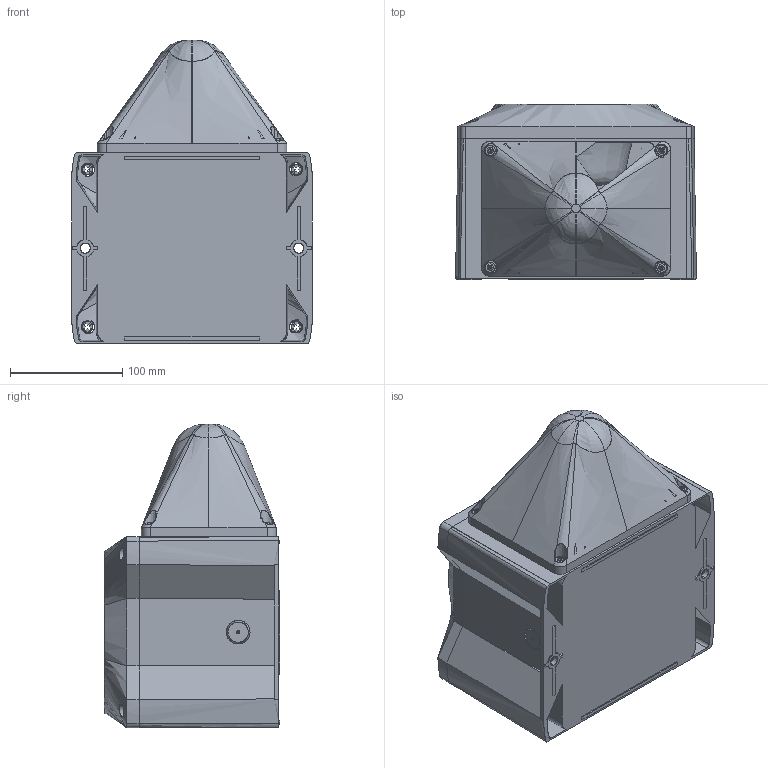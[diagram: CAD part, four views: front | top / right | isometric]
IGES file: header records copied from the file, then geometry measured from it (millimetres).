
Start section: SolidWorks IGES file using analytic representation for surfaces
Global section: file name: L:\3D Volumenmodelle\PATROL_PYRA\PA(X)10\PAX10_30305-100.IGS; native system: SolidWorks 2011; preprocessor: SolidWorks 2011; author: MMark; date: 120110.112026; units: millimetre
Bounding box: 214.34 x 156.2 x 270.05 mm (x, y, z)
Surface area: 295611.2 mm2 (no closed solid volume)
Topology: 0 solids, 0 shells, 395 faces, 5531 edges, 5531 vertices
Faces by surface type: bspline 280, revolution 115
